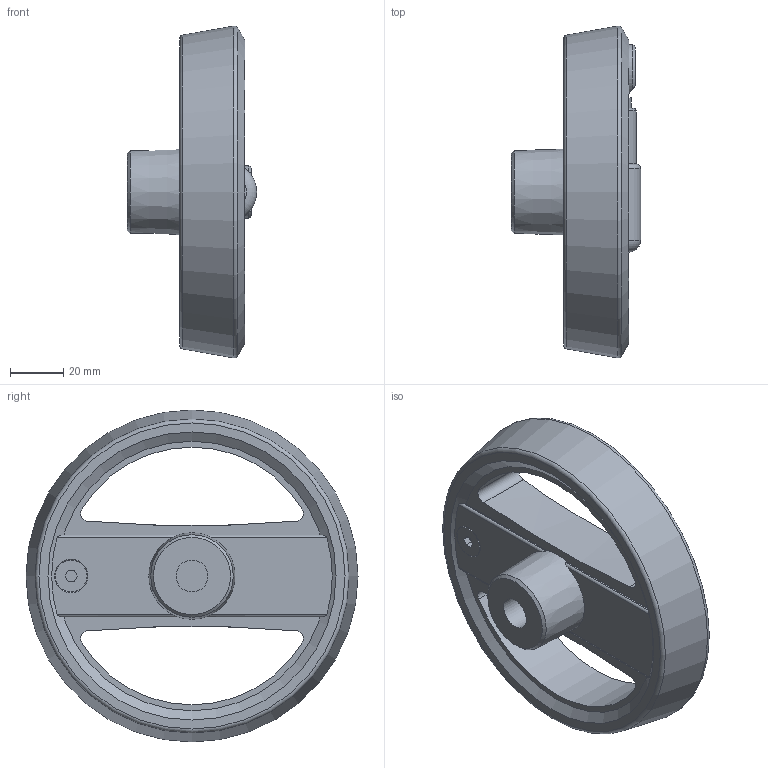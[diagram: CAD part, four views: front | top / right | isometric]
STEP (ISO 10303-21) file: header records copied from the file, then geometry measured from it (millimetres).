
FILE_DESCRIPTION( ( 'STEP AP203' ), '1' );
FILE_NAME( 'C:/Temp/Ganter_Step_05_03_2020/data/1_3/gn_924_7/gn_924_7_b/Handwheel with retractable handle GN 924.7-125-B12-R-SW (unactivated).stp', '2020-03-05T10:41:24', ( 'License CC BY-ND 4.0' ), ( 'CADENAS' ), ' ', 'PARTsolutions', ' ' );
FILE_SCHEMA( ( 'CONFIG_CONTROL_DESIGN' ) );
Length unit declared in the file: millimetre
Products named in the file (3): Handwheel with retractable handle GN 924.7-125-B12-R-SW (unactivated); _Umleggriff-Handrad GN 924.7-125-B12-R-SW-1; _Umleggriff-Handrad GN 924.7-125-B12-R-SW (0)-2
Assembly tree (2 placements, depth 2):
  Handwheel with retractable handle GN 924.7-125-B12-R-SW (unactivated)
    _Umleggriff-Handrad GN 924.7-125-B12-R-SW-1
    _Umleggriff-Handrad GN 924.7-125-B12-R-SW (0)-2
Bounding box: 48.7 x 125 x 125 mm (x, y, z)
Volume: 165992.6 mm3; surface area: 51458.4 mm2
Topology: 2 solids, 2 shells, 103 faces, 264 edges, 169 vertices
Faces by surface type: plane 43, cylinder 39, cone 11, torus 8, sphere 2
Full cylindrical faces by diameter (mm): 4 x4, 5 x1, 8 x1, 12 x2, 15 x1, 18.5 x1, 20 x1, 22 x1, 24 x1, 25.6 x1
Entity records: 3386 total; most frequent: CARTESIAN_POINT 975, DIRECTION 478, ORIENTED_EDGE 432, EDGE_CURVE 216, AXIS2_PLACEMENT_3D 200, VERTEX_POINT 159, EDGE_LOOP 156, FACE_OUTER_BOUND 124
